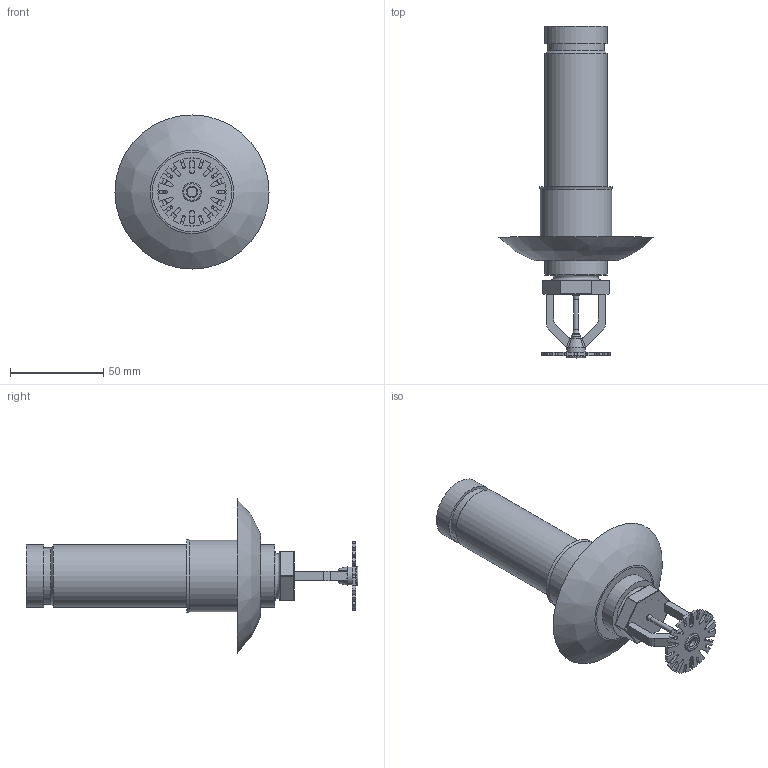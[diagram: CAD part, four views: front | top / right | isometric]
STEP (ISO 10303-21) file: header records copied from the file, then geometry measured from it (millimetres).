
FILE_DESCRIPTION(/* description */ ('VIC SPRINKLER V3614 K5.6 DRY PENDENT QUICK RESPONSE (IGS)'),/* implementation_level */ '2;1');
FILE_NAME(/* name */ 'C:\Users\Public\Documents\Victaulic.Temp\A572\Victaulic_FP-Sprinkler_V3614_DRY_QR_Pendent (IGS)_SLV_SKT_1 (25).stp',/* time_stamp */ '2024-09-24T08:13:31+02:00',/* author */ ('kkamble'),/* organization */ ('Victaulic'),/* preprocessor_version */ 'ST-DEVELOPER v18',/* originating_system */ 'Autodesk Inventor 2020',/* authorisation */ '');
FILE_SCHEMA (('AUTOMOTIVE_DESIGN { 1 0 10303 214 3 1 1 }'));
Length unit declared in the file: inch
Products named in the file (2): V3614_Sleeve & Skirt-01.0; V3614-01
Assembly tree (1 placements, depth 2):
  V3614_Sleeve & Skirt-01.0
    V3614-01
Bounding box: 82.55 x 177.8 x 82.55 mm (x, y, z)
Volume: 94656.9 mm3; surface area: 41493.6 mm2
Topology: 1 solids, 1 shells, 229 faces, 623 edges, 401 vertices
Faces by surface type: plane 107, cylinder 88, sphere 12, bspline 9, torus 7, cone 6
Full cylindrical faces by diameter (mm): 2.54 x1, 5.08 x2, 10.16 x2, 20.93 x1, 26.645 x1, 30.226 x1, 33.401 x3, 38.481 x1
Entity records: 7825 total; most frequent: CARTESIAN_POINT 1597, DIRECTION 1278, ORIENTED_EDGE 1238, EDGE_CURVE 619, AXIS2_PLACEMENT_3D 467, VERTEX_POINT 401, LINE 344, VECTOR 344
